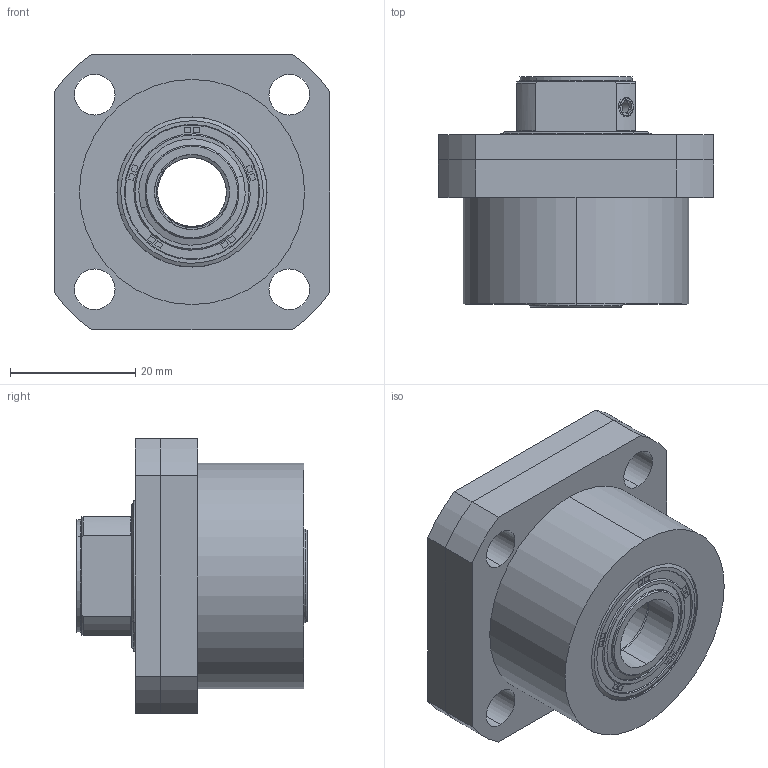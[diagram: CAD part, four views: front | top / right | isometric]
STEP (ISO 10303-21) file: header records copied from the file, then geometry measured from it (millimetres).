
FILE_DESCRIPTION (( 'STEP AP203' ), '1' );
FILE_NAME ('FK-12.STEP', '2025-08-29T09:39:18', ( '' ), ( '' ), 'SwSTEP 2.0', 'SolidWorks 2022', '' );
FILE_SCHEMA (( 'CONFIG_CONTROL_DESIGN' ));
Length unit declared in the file: millimetre
Products named in the file (10): FK-12.1; FK-12.3; FK-12.8; FK-12; FK-12.7; FK-12.6; 6204z подшипник; Винт DIN7991 (потай) кл. пр. 8.8_М4x8; FK-12.5; FK-12.4
Assembly tree (14 placements, depth 2):
  FK-12
    FK-12.1
    6204z подшипник  x2
    FK-12.3
    FK-12.4
    FK-12.5
    Винт DIN7991 (потай) кл. пр. 8.8_М4x8  x4
    FK-12.6
    FK-12.7
    FK-12.8  x2
Bounding box: 44 x 36.8 x 44 mm (x, y, z)
Volume: 31676.5 mm3; surface area: 27508.1 mm2
Topology: 22 solids, 22 shells, 745 faces, 1884 edges, 1207 vertices
Faces by surface type: plane 391, cylinder 168, cone 140, bspline 28, torus 18
Entity records: 23053 total; most frequent: CARTESIAN_POINT 11275, ORIENTED_EDGE 2238, DIRECTION 2197, EDGE_CURVE 1119, AXIS2_PLACEMENT_3D 833, VERTEX_POINT 722, VECTOR 531, LINE 531
